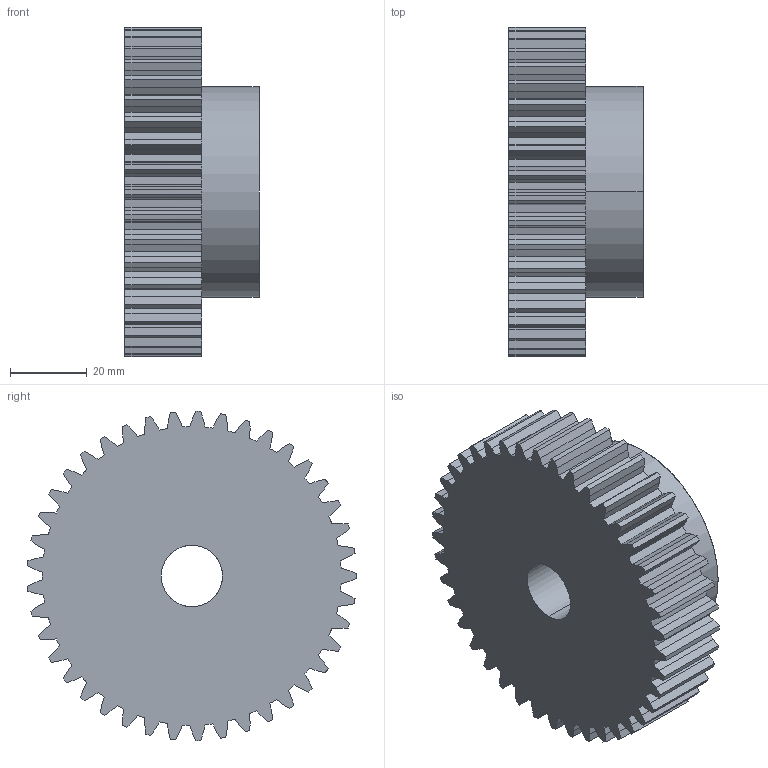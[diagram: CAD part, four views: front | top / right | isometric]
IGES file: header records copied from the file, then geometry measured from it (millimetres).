
Start section: SolidWorks IGES file using analytic representation for surfaces
Global section: file name: C:\Users\Honza\Desktop\Matis (Hotove)\Èelní ozubená kola\PM\MODUL 2\PM 28041.IGS; native system: SolidWorks 2010; preprocessor: SolidWorks 2010; author: Honza; date: 130925.104130; units: millimetre
Bounding box: 35 x 85.92 x 85.98 mm (x, y, z)
Surface area: 24124.3 mm2 (no closed solid volume)
Topology: 0 solids, 0 shells, 253 faces, 1712 edges, 1712 vertices
Faces by surface type: bspline 167, revolution 86
